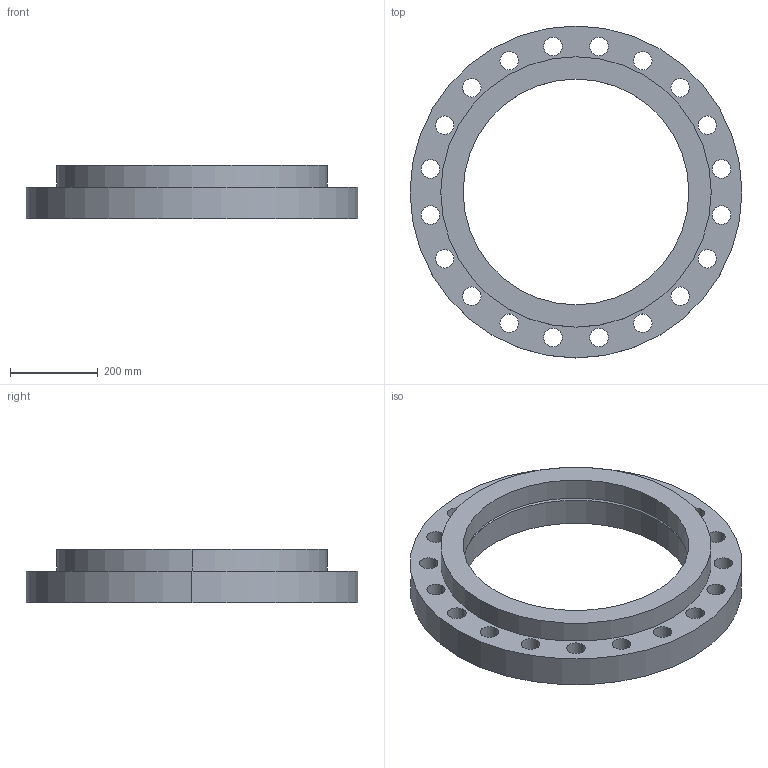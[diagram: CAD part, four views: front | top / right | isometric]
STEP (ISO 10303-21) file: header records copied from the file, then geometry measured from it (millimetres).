
FILE_DESCRIPTION (( 'STEP AP214' ), '1' );
FILE_NAME ('PN40 DN500 Type 02 in 32 - (Type A Face).STEP', '2018-12-29T01:35:25', ( '' ), ( '' ), 'SwSTEP 2.0', 'SolidWorks 2019', '' );
FILE_SCHEMA (( 'AUTOMOTIVE_DESIGN' ));
Length unit declared in the file: millimetre
Products named in the file (1): PN40 DN500 Type 02 in 32 - (Type A Face)
Bounding box: 755 x 755 x 122 mm (x, y, z)
Volume: 19452483.2 mm3; surface area: 1244669.8 mm2
Topology: 2 solids, 2 shells, 54 faces, 148 edges, 98 vertices
Faces by surface type: cylinder 48, plane 4, cone 2
Entity records: 1905 total; most frequent: DIRECTION 356, CARTESIAN_POINT 301, ORIENTED_EDGE 296, AXIS2_PLACEMENT_3D 153, EDGE_CURVE 148, CIRCLE 98, VERTEX_POINT 98, EDGE_LOOP 98
